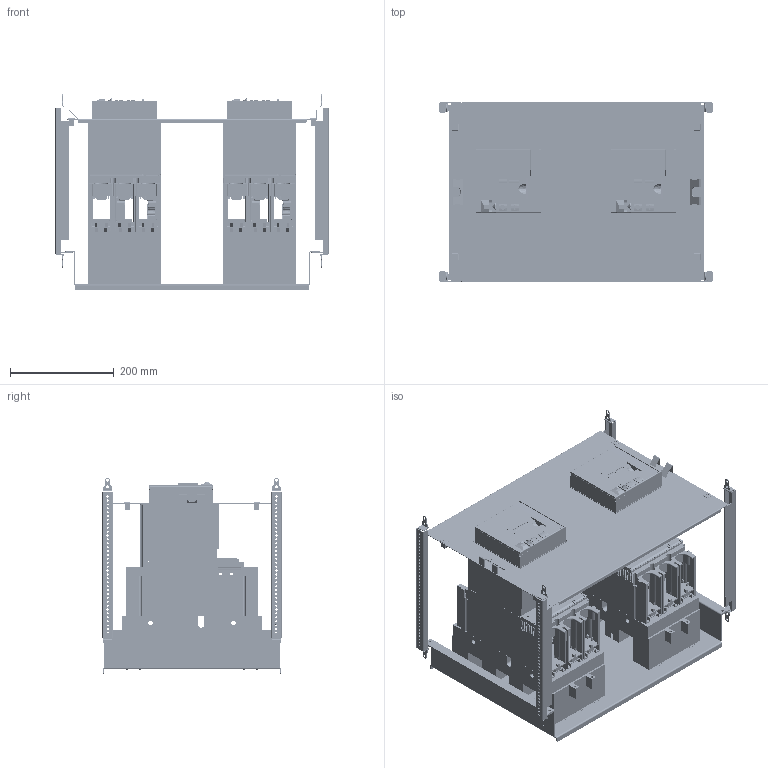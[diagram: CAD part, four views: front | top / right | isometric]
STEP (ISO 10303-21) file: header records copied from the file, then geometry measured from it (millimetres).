
FILE_DESCRIPTION(('CAx-IF Rec.Pracs.---Model Styling and Organization---1.2---2011-12-15','CAx-IF Rec.Pracs.---Geometric and Assembly Validation Properties---4.1---2014-06-16','CAx-IF Rec.Pracs.---PMI Polyline Presentation---2.0---2013-05-24'),'2;1');
FILE_NAME('R5PKIB7V62816 (P-MO).stp','2021-07-29T03:13:23+03:00',(''),(''),'STEP Interface 4.4 by CT CoreTechnologie','3D_Evolution4.4 by CT CoreTechnologie','');
FILE_SCHEMA(('AUTOMOTIVE_DESIGN { 1 0 10303 214 1 1 1 1 }'));
Length unit declared in the file: millimetre
Products named in the file (1): R5PKIB7V62816 (P-MO)
Bounding box: 526 x 348 x 378.5 mm (x, y, z)
Surface area: 2992639.7 mm2 (no closed solid volume)
Topology: 0 solids, 111 shells, 10716 faces, 31928 edges, 21284 vertices
Faces by surface type: plane 7408, cylinder 2978, bspline 330
Entity records: 364352 total; most frequent: CARTESIAN_POINT 71385, ORIENTED_EDGE 63664, DIRECTION 58338, EDGE_CURVE 31846, VECTOR 25420, LINE 25420, VERTEX_POINT 21338, AXIS2_PLACEMENT_3D 16459
